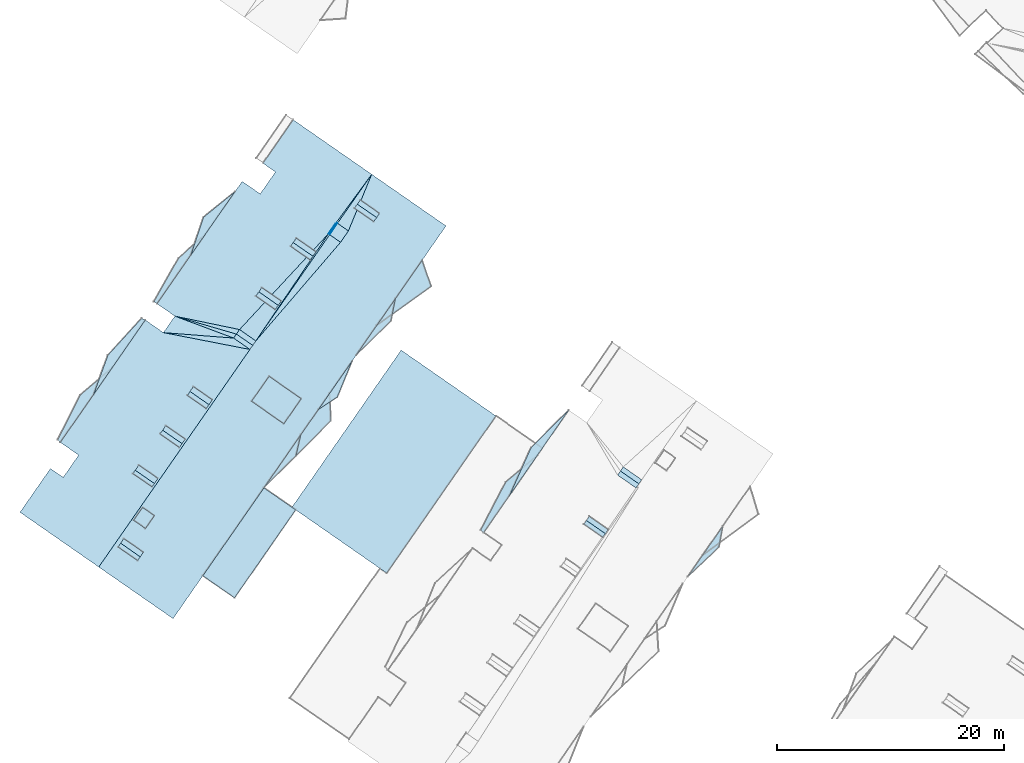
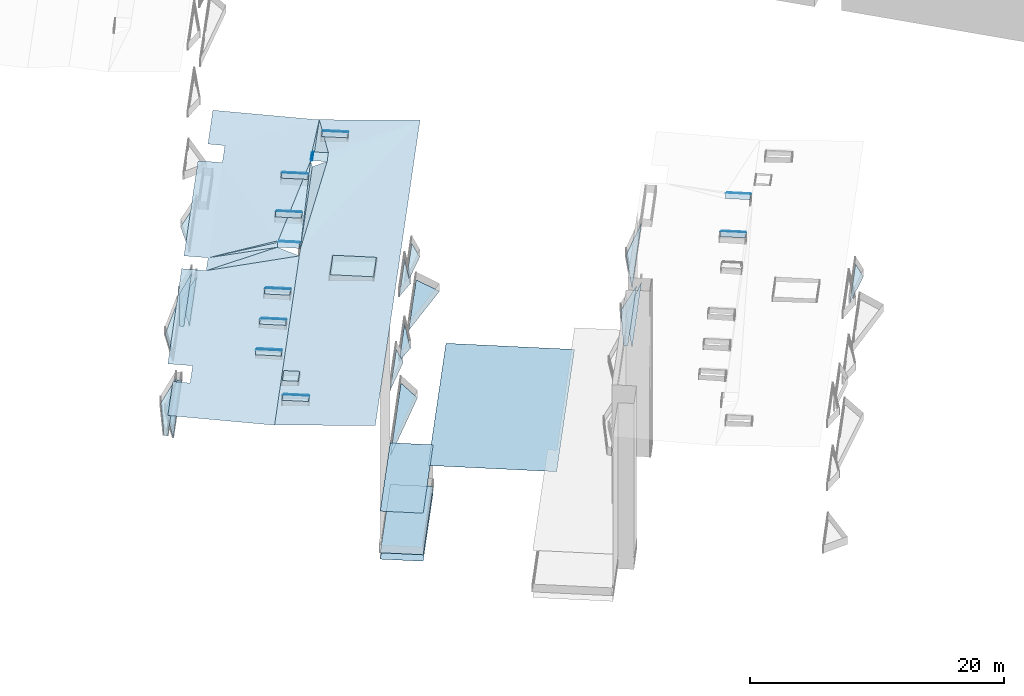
# Not in any storey, part 129 of 136: 91 roofs.
"""IFC2X3 building model written with IfcOpenShell, lengths in metres."""

from ifc_helpers import new_model, entity, si_unit, converted_unit, frame, origin, place, context, subcontext, project, spatial, face_set, surface_model, element, save


model = new_model("IFC2X3")

# Units and contexts
model_context = context("Model", 3, precision=1e-05, world=origin())
body_context = subcontext(model_context, "Body", "Model", "MODEL_VIEW")
ifc_project = project(units=[converted_unit("PLANEANGLEUNIT", "DEGREE", entity("IfcRatioMeasure", 0.0174532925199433), si_unit("PLANEANGLEUNIT", "RADIAN"), dimensions=[0, 0, 0, 0, 0, 0, 0]), si_unit("AREAUNIT", "SQUARE_METRE"), si_unit("LENGTHUNIT", "METRE")], contexts=[model_context])

# Site, building
site_placement = place(None, origin())
site = spatial("IfcSite", under=ifc_project, at=site_placement, Name="_site", CompositionType="ELEMENT")
building_1_placement = place(site_placement, origin())
building_1 = spatial("IfcBuilding", under=site, at=building_1_placement, Name="_building", CompositionType="ELEMENT")

# Roofs
roof_1_placement = place(building_1_placement, origin())
element("IfcRoof", 1, at=roof_1_placement, inside=building_1, Name="Roof", ShapeType="NOTDEFINED", context=body_context, shape_type="SurfaceModel", body=[
    surface_model("IfcFaceBasedSurfaceModel", [(-12.71, 69.46, 44.4), (-16.02, 66.17, 44.4), (-17.93, 61.93, 44.4)], [face_set([[[0, 1, 2]]])]),
])
for number, where, name in (
    (2, (0.0, 0.0, 0.0), "Roof"),
    (3, (0.0, 0.0, 0.0), "Roof"),
):
    element("IfcRoof", number, at=place(building_1_placement, frame(where)), inside=building_1, Name=name, ShapeType="NOTDEFINED", context=body_context, shape_type="SurfaceModel", body=[
        surface_model("IfcFaceBasedSurfaceModel", [(-9.49, 58.59, 54.52), (-9.24, 58.95, 54.35), (-10.91, 60.11, 54.35), (-11.16, 59.75, 54.52)], [face_set([[[0, 1, 2, 3]]])]),
    ])
roof_2_placement = place(building_1_placement, origin())
element("IfcRoof", 4, at=roof_2_placement, inside=building_1, Name="Roof", ShapeType="NOTDEFINED", context=body_context, shape_type="SurfaceModel", body=[
    surface_model("IfcFaceBasedSurfaceModel", [(-12.71, 69.46, 44.4), (-16.02, 66.17, 44.4), (-17.93, 61.93, 44.4)], [face_set([[[0, 1, 2]]])]),
])
for number, where, name in (
    (5, (0.0, 0.0, 0.0), "Roof"),
    (6, (0.0, 0.0, 0.0), "Roof"),
):
    element("IfcRoof", number, at=place(building_1_placement, frame(where)), inside=building_1, Name=name, ShapeType="NOTDEFINED", context=body_context, shape_type="SurfaceModel", body=[
        surface_model("IfcFaceBasedSurfaceModel", [(-12.71, 69.46, 50.1), (-16.02, 66.17, 50.1), (-17.93, 61.93, 50.1)], [face_set([[[0, 1, 2]]])]),
    ])
for number, where, name in (
    (7, (0.0, 0.0, 0.0), "Roof"),
    (8, (0.0, 0.0, 0.0), "Roof"),
):
    element("IfcRoof", number, at=place(building_1_placement, frame(where)), inside=building_1, Name=name, ShapeType="NOTDEFINED", context=body_context, shape_type="SurfaceModel", body=[
        surface_model("IfcFaceBasedSurfaceModel", [(-9.72, 58.26, 54.35), (-9.49, 58.59, 54.52), (-11.16, 59.75, 54.52), (-11.39, 59.42, 54.35)], [face_set([[[0, 1, 2, 3]]])]),
    ])
for number, where, name in (
    (9, (0.0, 0.0, 0.0), "Roof"),
    (10, (0.0, 0.0, 0.0), "Roof"),
):
    element("IfcRoof", number, at=place(building_1_placement, frame(where)), inside=building_1, Name=name, ShapeType="NOTDEFINED", context=body_context, shape_type="SurfaceModel", body=[
        surface_model("IfcFaceBasedSurfaceModel", [(-15.46, 65.49, 47.4), (-18.25, 63.13, 47.4), (-20.46, 58.9, 47.4), (-20.19, 58.67, 47.4)], [face_set([[[0, 1, 2, 3]]])]),
    ])
for number, where, name in (
    (11, (0.0, 0.0, 0.0), "Roof"),
    (12, (0.0, 0.0, 0.0), "Roof"),
):
    element("IfcRoof", number, at=place(building_1_placement, frame(where)), inside=building_1, Name=name, ShapeType="NOTDEFINED", context=body_context, shape_type="SurfaceModel", body=[
        surface_model("IfcFaceBasedSurfaceModel", [(-6.54, 62.97, 54.52), (-8.16, 64.101, 54.52), (-8.41, 63.74, 54.35), (-6.79, 62.61, 54.35), (-6.679, 62.771, 54.426)], [face_set([[[0, 1, 2, 3, 4]]])]),
    ])
for number, where, name in (
    (13, (0.0, 0.0, 0.0), "Roof"),
    (14, (0.0, 0.0, 0.0), "Roof"),
):
    element("IfcRoof", number, at=place(building_1_placement, frame(where)), inside=building_1, Name=name, ShapeType="NOTDEFINED", context=body_context, shape_type="SurfaceModel", body=[
        surface_model("IfcFaceBasedSurfaceModel", [(-6.29, 63.33, 54.35), (-7.91, 64.46, 54.35), (-8.16, 64.101, 54.52), (-6.54, 62.97, 54.52)], [face_set([[[0, 1, 2, 3]]])]),
    ])
for number, where, name in (
    (15, (0.0, 0.0, 0.0), "Roof"),
    (16, (0.0, 0.0, 0.0), "Roof"),
):
    element("IfcRoof", number, at=place(building_1_placement, frame(where)), inside=building_1, Name=name, ShapeType="NOTDEFINED", context=body_context, shape_type="SurfaceModel", body=[
        surface_model("IfcFaceBasedSurfaceModel", [(-2.24, 54.8, 47.54), (0.51, 57.41, 47.54), (0.85, 59.25, 47.54)], [face_set([[[0, 1, 2]]])]),
    ])

# Building
building_2_placement = place(site_placement, origin())
building_2 = spatial("IfcBuilding", under=site, at=building_2_placement, Name="_building", CompositionType="ELEMENT")

# Roofs
for number, where, name in (
    (17, (0.0, 0.0, 0.0), "Roof"),
    (18, (0.0, 0.0, 0.0), "Roof"),
):
    element("IfcRoof", number, at=place(building_2_placement, frame(where)), inside=building_2, Name=name, ShapeType="NOTDEFINED", context=body_context, shape_type="SurfaceModel", body=[
        surface_model("IfcFaceBasedSurfaceModel", [(-36.96, 84.2, 54.35), (-37.19, 83.87, 54.18), (-35.46, 82.67, 54.18), (-35.23, 83.01, 54.35)], [face_set([[[0, 1, 2, 3]]])]),
    ])
roof_3_placement = place(building_2_placement, origin())
element("IfcRoof", 19, at=roof_3_placement, inside=building_2, Name="Roof", ShapeType="NOTDEFINED", context=body_context, shape_type="SurfaceModel", body=[
    surface_model("IfcFaceBasedSurfaceModel", [(-31.32, 87.58, 54.33), (-31.57, 87.22, 54.18), (-29.87, 86.04, 54.18), (-29.62, 86.41, 54.33)], [face_set([[[0, 1, 2, 3]]])]),
])
roof_4_placement = place(building_2_placement, origin())
element("IfcRoof", 20, at=roof_4_placement, inside=building_2, Name="Roof", ShapeType="NOTDEFINED", context=body_context, shape_type="SurfaceModel", body=[
    surface_model("IfcFaceBasedSurfaceModel", [(-33.06, 85.9, 53.46), (-32.1, 85.23, 54.02), (-32.79, 84.23, 54.02), (-33.75, 84.9, 53.46), (-40.248, 75.549, 53.46), (-40.519, 75.159, 53.46), (-40.769, 74.799, 53.46), (-54.07, 55.65, 53.46), (-47.53, 51.11, 53.88), (-44.91, 54.88, 53.88), (-39.53, 62.62, 53.88), (-23.51, 85.67, 53.88), (-30.05, 90.21, 53.46)], [face_set([[[0, 1, 2, 3, 4, 5, 6, 7, 8, 9, 10, 11, 12]]])]),
])
roof_5_placement = place(building_2_placement, origin())
element("IfcRoof", 21, at=roof_5_placement, inside=building_2, Name="Roof", ShapeType="NOTDEFINED", context=body_context, shape_type="SurfaceModel", body=[
    surface_model("IfcFaceBasedSurfaceModel", [(-31.32, 87.58, 54.33), (-31.57, 87.22, 54.18), (-29.87, 86.04, 54.18), (-29.62, 86.41, 54.33)], [face_set([[[0, 1, 2, 3]]])]),
])
roof_6_placement = place(building_2_placement, origin())
element("IfcRoof", 22, at=roof_6_placement, inside=building_2, Name="Roof", ShapeType="NOTDEFINED", context=body_context, shape_type="SurfaceModel", body=[
    surface_model("IfcFaceBasedSurfaceModel", [(-33.06, 85.9, 53.46), (-32.1, 85.23, 54.02), (-32.79, 84.23, 54.02), (-33.75, 84.9, 53.46), (-40.248, 75.549, 53.46), (-40.519, 75.159, 53.46), (-40.769, 74.799, 53.46), (-54.07, 55.65, 53.46), (-47.53, 51.11, 53.88), (-44.91, 54.88, 53.88), (-39.53, 62.62, 53.88), (-23.51, 85.67, 53.88), (-30.05, 90.21, 53.46)], [face_set([[[0, 1, 2, 3, 4, 5, 6, 7, 8, 9, 10, 11, 12]]])]),
])
roof_7_placement = place(building_2_placement, origin())
element("IfcRoof", 23, at=roof_7_placement, inside=building_2, Name="Roof", ShapeType="NOTDEFINED", context=body_context, shape_type="SurfaceModel", body=[
    surface_model("IfcFaceBasedSurfaceModel", [(-30.05, 90.21, 53.46), (-30.32, 90.4, 53.46), (-36.96, 95.01, 53.88), (-39.62, 91.18, 53.88), (-38.52, 90.42, 53.81), (-39.86, 88.49, 53.81), (-41.45, 89.59, 53.88), (-48.94, 78.82, 53.88), (-47.37, 77.73, 53.81), (-48.38, 76.28, 53.81), (-49.97, 77.39, 53.88), (-57.45, 66.62, 53.88), (-55.84, 65.5, 53.81), (-57.2, 63.54, 53.81), (-58.32, 64.32, 53.88), (-61.0, 60.47, 53.88), (-54.34, 55.84, 53.46), (-54.07, 55.65, 53.46), (-40.769, 74.799, 53.46), (-42.2, 75.8, 54.18), (-41.96, 76.15, 54.35), (-41.68, 76.55, 54.18), (-40.248, 75.549, 53.46), (-33.75, 84.9, 53.46), (-33.86, 84.98, 54.02), (-33.17, 85.97, 54.02), (-33.06, 85.9, 53.46)], [face_set([[[0, 1, 2, 3, 4, 5, 6, 7, 8, 9, 10, 11, 12, 13, 14, 15, 16, 17, 18, 19, 20, 21, 22, 23, 24, 25, 26]]])]),
])
for number, where, name in (
    (24, (0.0, 0.0, 0.0), "Roof"),
    (25, (0.0, 0.0, 0.0), "Roof"),
):
    element("IfcRoof", number, at=place(building_2_placement, frame(where)), inside=building_2, Name=name, ShapeType="NOTDEFINED", context=body_context, shape_type="SurfaceModel", body=[
        surface_model("IfcFaceBasedSurfaceModel", [(-39.98, 79.87, 54.35), (-40.25, 79.49, 54.18), (-38.54, 78.3, 54.18), (-38.28, 78.68, 54.35)], [face_set([[[0, 1, 2, 3]]])]),
    ])
for number, where, name in (
    (26, (0.0, 0.0, 0.0), "Roof"),
    (27, (0.0, 0.0, 0.0), "Roof"),
):
    element("IfcRoof", number, at=place(building_2_placement, frame(where)), inside=building_2, Name=name, ShapeType="NOTDEFINED", context=body_context, shape_type="SurfaceModel", body=[
        surface_model("IfcFaceBasedSurfaceModel", [(-48.45, 67.69, 54.37), (-48.68, 67.36, 54.18), (-46.97, 66.17, 54.18), (-46.74, 66.51, 54.37)], [face_set([[[0, 1, 2, 3]]])]),
    ])
roof_8_placement = place(building_2_placement, origin())
element("IfcRoof", 28, at=roof_8_placement, inside=building_2, Name="Roof", ShapeType="NOTDEFINED", context=body_context, shape_type="SurfaceModel", body=[
    surface_model("IfcFaceBasedSurfaceModel", [(-30.05, 90.21, 53.46), (-30.32, 90.4, 53.46), (-36.96, 95.01, 53.88), (-39.62, 91.18, 53.88), (-38.52, 90.42, 53.81), (-39.86, 88.49, 53.81), (-41.45, 89.59, 53.88), (-48.94, 78.82, 53.88), (-47.37, 77.73, 53.81), (-48.38, 76.28, 53.81), (-49.97, 77.39, 53.88), (-57.45, 66.62, 53.88), (-55.84, 65.5, 53.81), (-57.2, 63.54, 53.81), (-58.32, 64.32, 53.88), (-61.0, 60.47, 53.88), (-54.34, 55.84, 53.46), (-54.07, 55.65, 53.46), (-40.769, 74.799, 53.46), (-42.2, 75.8, 54.18), (-41.96, 76.15, 54.35), (-41.68, 76.55, 54.18), (-40.248, 75.549, 53.46), (-33.75, 84.9, 53.46), (-33.86, 84.98, 54.02), (-33.17, 85.97, 54.02), (-33.06, 85.9, 53.46)], [face_set([[[0, 1, 2, 3, 4, 5, 6, 7, 8, 9, 10, 11, 12, 13, 14, 15, 16, 17, 18, 19, 20, 21, 22, 23, 24, 25, 26]]])]),
])
for number, where, name in (
    (29, (0.0, 0.0, 0.0), "Roof"),
    (30, (0.0, 0.0, 0.0), "Roof"),
):
    element("IfcRoof", number, at=place(building_2_placement, frame(where)), inside=building_2, Name=name, ShapeType="NOTDEFINED", context=body_context, shape_type="SurfaceModel", body=[
        surface_model("IfcFaceBasedSurfaceModel", [(-33.06, 85.9, 54.02), (-33.17, 85.97, 54.02), (-33.86, 84.98, 54.02), (-33.75, 84.9, 54.02)], [face_set([[[0, 1, 2, 3]]])]),
    ])
roof_9_placement = place(building_2_placement, origin())
element("IfcRoof", 31, at=roof_9_placement, inside=building_2, Name="Roof", ShapeType="NOTDEFINED", context=body_context, shape_type="SurfaceModel", body=[
    surface_model("IfcFaceBasedSurfaceModel", [(-33.75, 84.9, 54.02), (-32.79, 84.23, 54.02), (-32.1, 85.23, 54.02), (-33.06, 85.9, 54.02)], [face_set([[[0, 1, 2, 3]]])]),
])
roof_10_placement = place(building_2_placement, origin())
element("IfcRoof", 32, at=roof_10_placement, inside=building_2, Name="Roof", ShapeType="NOTDEFINED", context=body_context, shape_type="SurfaceModel", body=[
    surface_model("IfcFaceBasedSurfaceModel", [(-46.04, 71.101, 54.37), (-46.28, 70.75, 54.18), (-44.61, 69.59, 54.18), (-44.37, 69.94, 54.37)], [face_set([[[0, 1, 2, 3]]])]),
])
roof_11_placement = place(building_2_placement, origin())
element("IfcRoof", 33, at=roof_11_placement, inside=building_2, Name="Roof", ShapeType="NOTDEFINED", context=body_context, shape_type="SurfaceModel", body=[
    surface_model("IfcFaceBasedSurfaceModel", [(-33.75, 84.9, 54.02), (-32.79, 84.23, 54.02), (-32.1, 85.23, 54.02), (-33.06, 85.9, 54.02)], [face_set([[[0, 1, 2, 3]]])]),
])
roof_12_placement = place(building_2_placement, origin())
element("IfcRoof", 34, at=roof_12_placement, inside=building_2, Name="Roof", ShapeType="NOTDEFINED", context=body_context, shape_type="SurfaceModel", body=[
    surface_model("IfcFaceBasedSurfaceModel", [(-46.04, 71.101, 54.37), (-46.28, 70.75, 54.18), (-44.61, 69.59, 54.18), (-44.37, 69.94, 54.37)], [face_set([[[0, 1, 2, 3]]])]),
])
for number, where, name in (
    (35, (0.0, 0.0, 0.0), "Roof"),
    (36, (0.0, 0.0, 0.0), "Roof"),
):
    element("IfcRoof", number, at=place(building_2_placement, frame(where)), inside=building_2, Name=name, ShapeType="NOTDEFINED", context=body_context, shape_type="SurfaceModel", body=[
        surface_model("IfcFaceBasedSurfaceModel", [(-52.14, 57.75, 54.37), (-52.37, 57.41, 54.18), (-50.65, 56.22, 54.18), (-50.42, 56.55, 54.37)], [face_set([[[0, 1, 2, 3]]])]),
    ])
for number, where, name in (
    (37, (0.0, 0.0, 0.0), "Roof"),
    (38, (0.0, 0.0, 0.0), "Roof"),
):
    element("IfcRoof", number, at=place(building_2_placement, frame(where)), inside=building_2, Name=name, ShapeType="NOTDEFINED", context=body_context, shape_type="SurfaceModel", body=[
        surface_model("IfcFaceBasedSurfaceModel", [(-50.86, 64.17, 54.37), (-51.07, 63.87, 54.18), (-49.38, 62.7, 54.18), (-49.17, 63.0, 54.37)], [face_set([[[0, 1, 2, 3]]])]),
    ])
for number, where, name in (
    (39, (0.0, 0.0, 0.0), "Roof"),
    (40, (0.0, 0.0, 0.0), "Roof"),
):
    element("IfcRoof", number, at=place(building_2_placement, frame(where)), inside=building_2, Name=name, ShapeType="NOTDEFINED", context=body_context, shape_type="SurfaceModel", body=[
        surface_model("IfcFaceBasedSurfaceModel", [(-37.07, 60.91, 40.43), (-36.74, 60.68, 40.43), (-29.32, 55.521, 40.43), (-28.72, 55.11, 40.43), (-19.11, 68.94, 40.43), (-27.46, 74.74, 40.43)], [face_set([[[0, 1, 2, 3, 4, 5]]])]),
    ])
roof_13_placement = place(building_2_placement, origin())
element("IfcRoof", 41, at=roof_13_placement, inside=building_2, Name="Roof", ShapeType="NOTDEFINED", context=body_context, shape_type="SurfaceModel", body=[
    surface_model("IfcFaceBasedSurfaceModel", [(-44.71, 84.91, 47.1), (-47.04, 82.84, 47.1), (-49.22, 79.01, 47.1), (-48.94, 78.82, 47.1)], [face_set([[[0, 1, 2, 3]]])]),
])
for number, where, name in (
    (42, (0.0, 0.0, 0.0), "Roof"),
    (43, (0.0, 0.0, 0.0), "Roof"),
):
    element("IfcRoof", number, at=place(building_2_placement, frame(where)), inside=building_2, Name=name, ShapeType="NOTDEFINED", context=body_context, shape_type="SurfaceModel", body=[
        surface_model("IfcFaceBasedSurfaceModel", [(-31.78, 73.771, 50.63), (-34.74, 69.51, 50.63), (-33.08, 70.61, 50.63)], [face_set([[[0, 1, 2]]])]),
    ])
roof_14_placement = place(building_2_placement, origin())
element("IfcRoof", 44, at=roof_14_placement, inside=building_2, Name="Roof", ShapeType="NOTDEFINED", context=body_context, shape_type="SurfaceModel", body=[
    surface_model("IfcFaceBasedSurfaceModel", [(-48.17, 68.09, 54.18), (-48.45, 67.69, 54.37), (-46.74, 66.51, 54.37), (-46.46, 66.91, 54.18)], [face_set([[[0, 1, 2, 3]]])]),
])
roof_15_placement = place(building_2_placement, origin())
element("IfcRoof", 45, at=roof_15_placement, inside=building_2, Name="Roof", ShapeType="NOTDEFINED", context=body_context, shape_type="SurfaceModel", body=[
    surface_model("IfcFaceBasedSurfaceModel", [(-44.71, 84.91, 47.1), (-47.04, 82.84, 47.1), (-49.22, 79.01, 47.1), (-48.94, 78.82, 47.1)], [face_set([[[0, 1, 2, 3]]])]),
])
roof_16_placement = place(building_2_placement, origin())
element("IfcRoof", 46, at=roof_16_placement, inside=building_2, Name="Roof", ShapeType="NOTDEFINED", context=body_context, shape_type="SurfaceModel", body=[
    surface_model("IfcFaceBasedSurfaceModel", [(-45.74, 71.53, 54.18), (-46.04, 71.101, 54.37), (-44.37, 69.94, 54.37), (-44.07, 70.37, 54.18)], [face_set([[[0, 1, 2, 3]]])]),
])
roof_17_placement = place(building_2_placement, origin())
element("IfcRoof", 47, at=roof_17_placement, inside=building_2, Name="Roof", ShapeType="NOTDEFINED", context=body_context, shape_type="SurfaceModel", body=[
    surface_model("IfcFaceBasedSurfaceModel", [(-36.29, 67.28, 47.47), (-39.53, 62.62, 47.47), (-36.71, 65.45, 47.47)], [face_set([[[0, 1, 2]]])]),
])
for number, where, name in (
    (48, (0.0, 0.0, 0.0), "Roof"),
    (49, (0.0, 0.0, 0.0), "Roof"),
):
    element("IfcRoof", number, at=place(building_2_placement, frame(where)), inside=building_2, Name=name, ShapeType="NOTDEFINED", context=body_context, shape_type="SurfaceModel", body=[
        surface_model("IfcFaceBasedSurfaceModel", [(-27.96, 79.271, 47.47), (-31.43, 74.28, 47.47), (-28.35, 77.32, 47.47)], [face_set([[[0, 1, 2]]])]),
    ])
roof_18_placement = place(building_2_placement, origin())
element("IfcRoof", 50, at=roof_18_placement, inside=building_2, Name="Roof", ShapeType="NOTDEFINED", context=body_context, shape_type="SurfaceModel", body=[
    surface_model("IfcFaceBasedSurfaceModel", [(-31.78, 73.771, 44.42), (-34.74, 69.51, 44.42), (-33.08, 70.61, 44.42)], [face_set([[[0, 1, 2]]])]),
])
for number, where, name in (
    (51, (0.0, 0.0, 0.0), "Roof"),
    (52, (0.0, 0.0, 0.0), "Roof"),
):
    element("IfcRoof", number, at=place(building_2_placement, frame(where)), inside=building_2, Name=name, ShapeType="NOTDEFINED", context=body_context, shape_type="SurfaceModel", body=[
        surface_model("IfcFaceBasedSurfaceModel", [(-52.89, 73.18, 46.95), (-55.72, 70.76, 46.95), (-57.68, 66.84, 46.95), (-57.45, 66.62, 46.95)], [face_set([[[0, 1, 2, 3]]])]),
    ])
for number, where, name in (
    (53, (0.0, 0.0, 0.0), "Roof"),
    (54, (0.0, 0.0, 0.0), "Roof"),
):
    element("IfcRoof", number, at=place(building_2_placement, frame(where)), inside=building_2, Name=name, ShapeType="NOTDEFINED", context=body_context, shape_type="SurfaceModel", body=[
        surface_model("IfcFaceBasedSurfaceModel", [(-53.26, 74.3, 50.62), (-54.53, 70.82, 50.62), (-49.97, 77.39, 50.62), (-50.3, 77.53, 50.62)], [face_set([[[0, 1, 2, 3]]])]),
    ])
roof_19_placement = place(building_2_placement, origin())
element("IfcRoof", 55, at=roof_19_placement, inside=building_2, Name="Roof", ShapeType="NOTDEFINED", context=body_context, shape_type="SurfaceModel", body=[
    surface_model("IfcFaceBasedSurfaceModel", [(-51.86, 58.15, 54.18), (-52.14, 57.75, 54.37), (-50.42, 56.55, 54.37), (-50.14, 56.95, 54.18)], [face_set([[[0, 1, 2, 3]]])]),
])
for number, where, name in (
    (56, (0.0, 0.0, 0.0), "Roof"),
    (57, (0.0, 0.0, 0.0), "Roof"),
):
    element("IfcRoof", number, at=place(building_2_placement, frame(where)), inside=building_2, Name=name, ShapeType="NOTDEFINED", context=body_context, shape_type="SurfaceModel", body=[
        surface_model("IfcFaceBasedSurfaceModel", [(-36.29, 67.28, 41.1), (-39.53, 62.62, 41.1), (-33.64, 68.53, 41.1), (-33.74, 70.95, 41.1)], [face_set([[[0, 1, 2, 3]]])]),
    ])
roof_20_placement = place(building_2_placement, origin())
element("IfcRoof", 58, at=roof_20_placement, inside=building_2, Name="Roof", ShapeType="NOTDEFINED", context=body_context, shape_type="SurfaceModel", body=[
    surface_model("IfcFaceBasedSurfaceModel", [(-51.86, 58.15, 54.18), (-52.14, 57.75, 54.37), (-50.42, 56.55, 54.37), (-50.14, 56.95, 54.18)], [face_set([[[0, 1, 2, 3]]])]),
])
roof_21_placement = place(building_2_placement, origin())
element("IfcRoof", 59, at=roof_21_placement, inside=building_2, Name="Roof", ShapeType="NOTDEFINED", context=body_context, shape_type="SurfaceModel", body=[
    surface_model("IfcFaceBasedSurfaceModel", [(-50.55, 64.62, 54.18), (-50.86, 64.17, 54.37), (-49.17, 63.0, 54.37), (-48.86, 63.45, 54.18)], [face_set([[[0, 1, 2, 3]]])]),
])
roof_22_placement = place(building_2_placement, origin())
element("IfcRoof", 60, at=roof_22_placement, inside=building_2, Name="Roof", ShapeType="NOTDEFINED", context=body_context, shape_type="SurfaceModel", body=[
    surface_model("IfcFaceBasedSurfaceModel", [(-45.74, 71.53, 54.18), (-46.04, 71.101, 54.37), (-44.37, 69.94, 54.37), (-44.07, 70.37, 54.18)], [face_set([[[0, 1, 2, 3]]])]),
])
for number, where, name in (
    (61, (0.0, 0.0, 0.0), "Roof"),
    (62, (0.0, 0.0, 0.0), "Roof"),
):
    element("IfcRoof", number, at=place(building_2_placement, frame(where)), inside=building_2, Name=name, ShapeType="NOTDEFINED", context=body_context, shape_type="SurfaceModel", body=[
        surface_model("IfcFaceBasedSurfaceModel", [(-39.72, 80.24, 54.18), (-39.98, 79.87, 54.35), (-38.28, 78.68, 54.35), (-38.02, 79.061, 54.18)], [face_set([[[0, 1, 2, 3]]])]),
    ])
for number, where, name in (
    (63, (0.0, 0.0, 0.0), "Roof"),
    (64, (0.0, 0.0, 0.0), "Roof"),
):
    element("IfcRoof", number, at=place(building_2_placement, frame(where)), inside=building_2, Name=name, ShapeType="NOTDEFINED", context=body_context, shape_type="SurfaceModel", body=[
        surface_model("IfcFaceBasedSurfaceModel", [(-36.69, 84.59, 54.18), (-36.96, 84.2, 54.35), (-35.23, 83.01, 54.35), (-34.96, 83.39, 54.18)], [face_set([[[0, 1, 2, 3]]])]),
    ])
for number, where, name in (
    (65, (0.0, 0.0, 0.0), "Roof"),
    (66, (0.0, 0.0, 0.0), "Roof"),
):
    element("IfcRoof", number, at=place(building_2_placement, frame(where)), inside=building_2, Name=name, ShapeType="NOTDEFINED", context=body_context, shape_type="SurfaceModel", body=[
        surface_model("IfcFaceBasedSurfaceModel", [(-31.06, 87.95, 54.18), (-31.32, 87.58, 54.33), (-29.62, 86.41, 54.33), (-29.37, 86.771, 54.18)], [face_set([[[0, 1, 2, 3]]])]),
    ])
for number, where, name in (
    (67, (0.0, 0.0, 0.0), "Roof"),
    (68, (0.0, 0.0, 0.0), "Roof"),
):
    element("IfcRoof", number, at=place(building_2_placement, frame(where)), inside=building_2, Name=name, ShapeType="NOTDEFINED", context=body_context, shape_type="SurfaceModel", body=[
        surface_model("IfcFaceBasedSurfaceModel", [(-49.17, 60.17, 54.17), (-50.21, 60.89, 54.17), (-51.0, 59.76, 54.17), (-49.96, 59.04, 54.17)], [face_set([[[0, 1, 2, 3]]])]),
    ])
roof_23_placement = place(building_2_placement, origin())
element("IfcRoof", 69, at=roof_23_placement, inside=building_2, Name="Roof", ShapeType="NOTDEFINED", context=body_context, shape_type="SurfaceModel", body=[
    surface_model("IfcFaceBasedSurfaceModel", [(-31.78, 73.771, 44.42), (-34.74, 69.51, 44.42), (-33.08, 70.61, 44.42)], [face_set([[[0, 1, 2]]])]),
])
for number, where, name in (
    (70, (0.0, 0.0, 0.0), "Roof"),
    (71, (0.0, 0.0, 0.0), "Roof"),
):
    element("IfcRoof", number, at=place(building_2_placement, frame(where)), inside=building_2, Name=name, ShapeType="NOTDEFINED", context=body_context, shape_type="SurfaceModel", body=[
        surface_model("IfcFaceBasedSurfaceModel", [(-40.62, 70.23, 54.37), (-37.78, 68.25, 54.37), (-36.25, 70.46, 54.37), (-39.08, 72.43, 54.37)], [face_set([[[0, 1, 2, 3]]])]),
    ])
roof_24_placement = place(building_2_placement, origin())
element("IfcRoof", 72, at=roof_24_placement, inside=building_2, Name="Roof", ShapeType="NOTDEFINED", context=body_context, shape_type="SurfaceModel", body=[
    surface_model("IfcFaceBasedSurfaceModel", [(-48.17, 68.09, 54.18), (-48.45, 67.69, 54.37), (-46.74, 66.51, 54.37), (-46.46, 66.91, 54.18)], [face_set([[[0, 1, 2, 3]]])]),
])
roof_25_placement = place(building_2_placement, origin())
element("IfcRoof", 73, at=roof_25_placement, inside=building_2, Name="Roof", ShapeType="NOTDEFINED", context=body_context, shape_type="SurfaceModel", body=[
    surface_model("IfcFaceBasedSurfaceModel", [(-42.08, 88.69, 43.5), (-44.85, 86.43, 43.5), (-45.97, 83.09, 43.5)], [face_set([[[0, 1, 2]]])]),
])
roof_26_placement = place(building_2_placement, origin())
element("IfcRoof", 74, at=roof_26_placement, inside=building_2, Name="Roof", ShapeType="NOTDEFINED", context=body_context, shape_type="SurfaceModel", body=[
    surface_model("IfcFaceBasedSurfaceModel", [(-44.91, 54.88, 37.82), (-42.12, 52.94, 37.82), (-36.74, 60.68, 37.82), (-37.07, 60.91, 37.82), (-39.53, 62.62, 37.82)], [face_set([[[0, 1, 2, 3, 4]]])]),
])
for number, where, name in (
    (75, (0.0, 0.0, 0.0), "Roof"),
    (76, (0.0, 0.0, 0.0), "Roof"),
):
    element("IfcRoof", number, at=place(building_2_placement, frame(where)), inside=building_2, Name=name, ShapeType="NOTDEFINED", context=body_context, shape_type="SurfaceModel", body=[
        surface_model("IfcFaceBasedSurfaceModel", [(-44.85, 86.43, 50.62), (-45.97, 83.09, 50.62), (-42.08, 88.69, 50.62)], [face_set([[[0, 1, 2]]])]),
    ])
roof_27_placement = place(building_2_placement, origin())
element("IfcRoof", 77, at=roof_27_placement, inside=building_2, Name="Roof", ShapeType="NOTDEFINED", context=body_context, shape_type="SurfaceModel", body=[
    surface_model("IfcFaceBasedSurfaceModel", [(-40.519, 75.159, 54.35), (-41.96, 76.15, 54.35), (-42.2, 75.8, 54.18), (-40.769, 74.799, 54.18)], [face_set([[[0, 1, 2, 3]]])]),
])
for number, where, name in (
    (78, (0.0, 0.0, 0.0), "Roof"),
    (79, (0.0, 0.0, 0.0), "Roof"),
):
    element("IfcRoof", number, at=place(building_2_placement, frame(where)), inside=building_2, Name=name, ShapeType="NOTDEFINED", context=body_context, shape_type="SurfaceModel", body=[
        surface_model("IfcFaceBasedSurfaceModel", [(-49.97, 77.39, 43.2), (-50.3, 77.53, 43.2), (-53.26, 74.3, 43.2), (-54.53, 70.82, 43.2)], [face_set([[[0, 1, 2, 3]]])]),
    ])
roof_28_placement = place(building_2_placement, origin())
element("IfcRoof", 80, at=roof_28_placement, inside=building_2, Name="Roof", ShapeType="NOTDEFINED", context=body_context, shape_type="SurfaceModel", body=[
    surface_model("IfcFaceBasedSurfaceModel", [(-40.519, 75.159, 54.35), (-41.96, 76.15, 54.35), (-42.2, 75.8, 54.18), (-40.769, 74.799, 54.18)], [face_set([[[0, 1, 2, 3]]])]),
])
for number, where, name in (
    (81, (0.0, 0.0, 0.0), "Roof"),
    (82, (0.0, 0.0, 0.0), "Roof"),
):
    element("IfcRoof", number, at=place(building_2_placement, frame(where)), inside=building_2, Name=name, ShapeType="NOTDEFINED", context=body_context, shape_type="SurfaceModel", body=[
        surface_model("IfcFaceBasedSurfaceModel", [(-42.12, 52.94, 38.44), (-36.74, 60.68, 38.44), (-39.53, 62.62, 38.44), (-44.91, 54.88, 38.44)], [face_set([[[0, 1, 2, 3]]])]),
    ])
for number, where, name in (
    (83, (0.0, 0.0, 0.0), "Roof"),
    (84, (0.0, 0.0, 0.0), "Roof"),
):
    element("IfcRoof", number, at=place(building_2_placement, frame(where)), inside=building_2, Name=name, ShapeType="NOTDEFINED", context=body_context, shape_type="SurfaceModel", body=[
        surface_model("IfcFaceBasedSurfaceModel", [(-27.96, 79.271, 41.1), (-29.6, 76.91, 41.1), (-24.81, 80.351, 41.1), (-25.61, 82.64, 41.1)], [face_set([[[0, 1, 2, 3]]])]),
    ])
roof_29_placement = place(building_2_placement, origin())
element("IfcRoof", 85, at=roof_29_placement, inside=building_2, Name="Roof", ShapeType="NOTDEFINED", context=body_context, shape_type="SurfaceModel", body=[
    surface_model("IfcFaceBasedSurfaceModel", [(-42.12, 52.94, 42.44), (-36.74, 60.68, 42.44), (-39.53, 62.62, 42.44), (-44.91, 54.88, 42.44)], [face_set([[[0, 1, 2, 3]]])]),
])
roof_30_placement = place(building_2_placement, origin())
element("IfcRoof", 86, at=roof_30_placement, inside=building_2, Name="Roof", ShapeType="NOTDEFINED", context=body_context, shape_type="SurfaceModel", body=[
    surface_model("IfcFaceBasedSurfaceModel", [(-36.29, 67.28, 47.47), (-39.53, 62.62, 47.47), (-36.71, 65.45, 47.47)], [face_set([[[0, 1, 2]]])]),
])
roof_31_placement = place(building_2_placement, origin())
element("IfcRoof", 87, at=roof_31_placement, inside=building_2, Name="Roof", ShapeType="NOTDEFINED", context=body_context, shape_type="SurfaceModel", body=[
    surface_model("IfcFaceBasedSurfaceModel", [(-50.55, 64.62, 54.18), (-50.86, 64.17, 54.37), (-49.17, 63.0, 54.37), (-48.86, 63.45, 54.18)], [face_set([[[0, 1, 2, 3]]])]),
])
for number, where, name in (
    (88, (0.0, 0.0, 0.0), "Roof"),
    (89, (0.0, 0.0, 0.0), "Roof"),
):
    element("IfcRoof", number, at=place(building_2_placement, frame(where)), inside=building_2, Name=name, ShapeType="NOTDEFINED", context=body_context, shape_type="SurfaceModel", body=[
        surface_model("IfcFaceBasedSurfaceModel", [(-40.248, 75.549, 54.18), (-41.68, 76.55, 54.18), (-41.96, 76.15, 54.35), (-40.519, 75.159, 54.35)], [face_set([[[0, 1, 2, 3]]])]),
    ])
roof_32_placement = place(building_2_placement, origin())
element("IfcRoof", 90, at=roof_32_placement, inside=building_2, Name="Roof", ShapeType="NOTDEFINED", context=body_context, shape_type="SurfaceModel", body=[
    surface_model("IfcFaceBasedSurfaceModel", [(-42.08, 88.69, 43.5), (-44.85, 86.43, 43.5), (-45.97, 83.09, 43.5)], [face_set([[[0, 1, 2]]])]),
])
roof_33_placement = place(building_2_placement, origin())
element("IfcRoof", 91, at=roof_33_placement, inside=building_2, Name="Roof", ShapeType="NOTDEFINED", context=body_context, shape_type="SurfaceModel", body=[
    surface_model("IfcFaceBasedSurfaceModel", [(-44.91, 54.88, 37.82), (-42.12, 52.94, 37.82), (-36.74, 60.68, 37.82), (-37.07, 60.91, 37.82), (-39.53, 62.62, 37.82)], [face_set([[[0, 1, 2, 3, 4]]])]),
])

save(model, "model.ifc")
